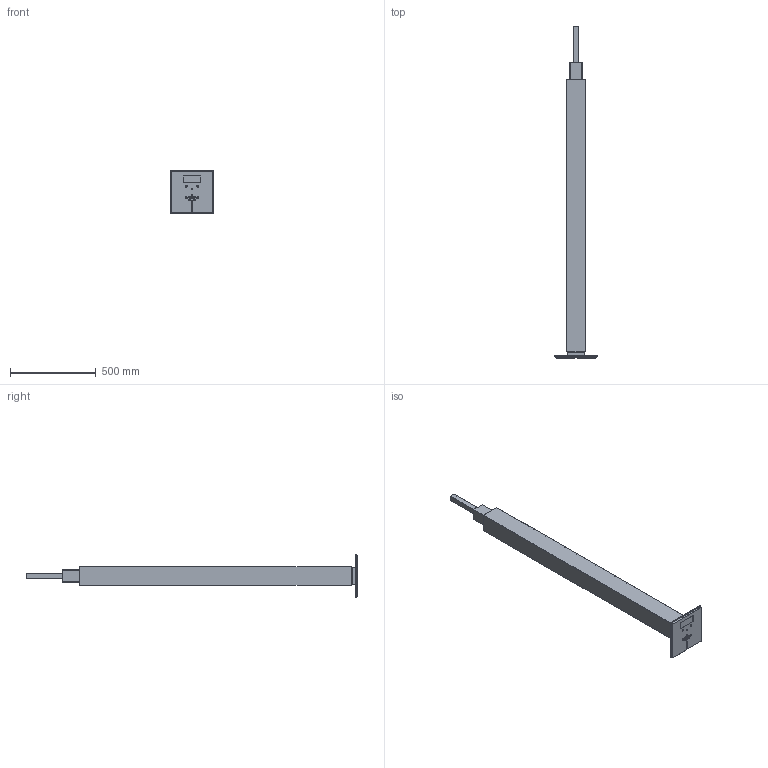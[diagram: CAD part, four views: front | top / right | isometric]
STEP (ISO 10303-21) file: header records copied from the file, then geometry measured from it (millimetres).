
FILE_DESCRIPTION (( 'STEP AP203' ), '1' );
FILE_NAME ('296_STD_F_LD_3D.STEP', '2021-10-25T10:45:35', ( '' ), ( '' ), 'SwSTEP 2.0', 'SolidWorks 2021', '' );
FILE_SCHEMA (( 'CONFIG_CONTROL_DESIGN' ));
Length unit declared in the file: millimetre
Products named in the file (1): 296_STD_F_LD_3D
Bounding box: 250 x 1931.1 x 250 mm (x, y, z)
Volume: 7419052.5 mm3; surface area: 3138384.8 mm2
Topology: 16 solids, 16 shells, 638 faces, 1455 edges, 820 vertices
Faces by surface type: plane 340, cylinder 221, torus 29, sphere 24, cone 16, bspline 8
Entity records: 17505 total; most frequent: DIRECTION 3120, CARTESIAN_POINT 3066, ORIENTED_EDGE 2846, EDGE_CURVE 1423, AXIS2_PLACEMENT_3D 1098, LINE 924, VECTOR 924, VERTEX_POINT 820
